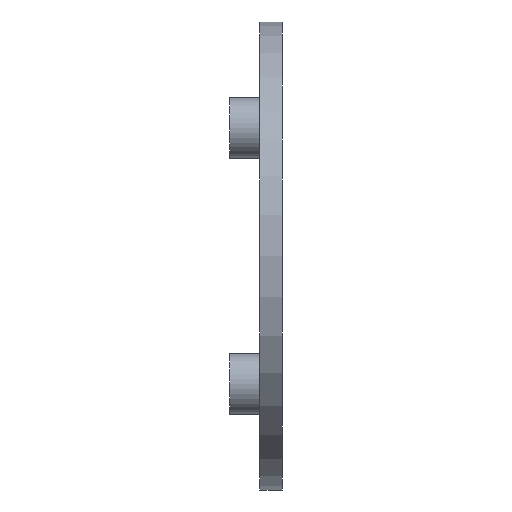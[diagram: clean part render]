
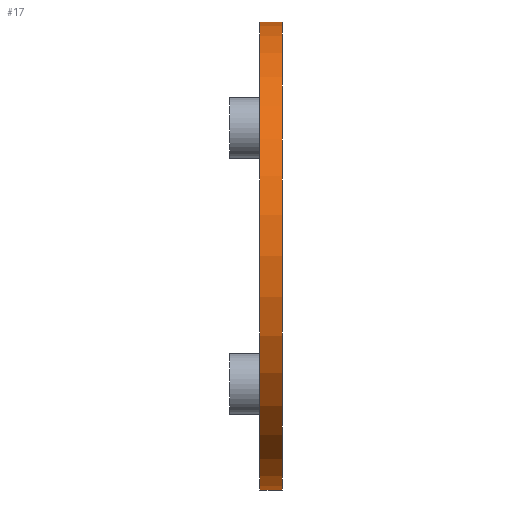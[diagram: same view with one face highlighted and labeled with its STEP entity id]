
A CAD part, front view. The second image highlights one B-rep face of the part: STEP entity #17.
In plain terms, the highlighted cylindrical face has radius 31 mm (diameter 62 mm), a full revolution.
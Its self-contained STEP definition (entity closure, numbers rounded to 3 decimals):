
#17 = ADVANCED_FACE('',(#18),#32,.T.);
#18 = FACE_BOUND('',#19,.F.);
#19 = EDGE_LOOP('',(#20,#50,#77,#78));
#20 = ORIENTED_EDGE('',*,*,#21,.T.);
#21 = EDGE_CURVE('',#22,#24,#26,.T.);
#22 = VERTEX_POINT('',#23);
#23 = CARTESIAN_POINT('',(-11.4,31.,0.));
#24 = VERTEX_POINT('',#25);
#25 = CARTESIAN_POINT('',(-8.4,31.,0.));
#26 = SEAM_CURVE('',#27,(#31,#43),.PCURVE_S1.);
#27 = LINE('',#28,#29);
#28 = CARTESIAN_POINT('',(-11.4,31.,0.));
#29 = VECTOR('',#30,1.);
#30 = DIRECTION('',(1.,0.,0.));
#31 = PCURVE('',#32,#37);
#32 = CYLINDRICAL_SURFACE('',#33,31.);
#33 = AXIS2_PLACEMENT_3D('',#34,#35,#36);
#34 = CARTESIAN_POINT('',(-11.4,0.,0.));
#35 = DIRECTION('',(-1.,-0.,-0.));
#36 = DIRECTION('',(0.,1.,0.));
#37 = DEFINITIONAL_REPRESENTATION('',(#38),#42);
#38 = LINE('',#39,#40);
#39 = CARTESIAN_POINT('',(-0.,0.));
#40 = VECTOR('',#41,1.);
#41 = DIRECTION('',(-0.,-1.));
#42 = ( GEOMETRIC_REPRESENTATION_CONTEXT(2) 
PARAMETRIC_REPRESENTATION_CONTEXT() REPRESENTATION_CONTEXT('2D SPACE',''
  ) );
#43 = PCURVE('',#32,#44);
#44 = DEFINITIONAL_REPRESENTATION('',(#45),#49);
#45 = LINE('',#46,#47);
#46 = CARTESIAN_POINT('',(-6.283,0.));
#47 = VECTOR('',#48,1.);
#48 = DIRECTION('',(-0.,-1.));
#49 = ( GEOMETRIC_REPRESENTATION_CONTEXT(2) 
PARAMETRIC_REPRESENTATION_CONTEXT() REPRESENTATION_CONTEXT('2D SPACE',''
  ) );
#50 = ORIENTED_EDGE('',*,*,#51,.T.);
#51 = EDGE_CURVE('',#24,#24,#52,.T.);
#52 = SURFACE_CURVE('',#53,(#58,#65),.PCURVE_S1.);
#53 = CIRCLE('',#54,31.);
#54 = AXIS2_PLACEMENT_3D('',#55,#56,#57);
#55 = CARTESIAN_POINT('',(-8.4,0.,0.));
#56 = DIRECTION('',(1.,0.,0.));
#57 = DIRECTION('',(0.,1.,0.));
#58 = PCURVE('',#32,#59);
#59 = DEFINITIONAL_REPRESENTATION('',(#60),#64);
#60 = LINE('',#61,#62);
#61 = CARTESIAN_POINT('',(-0.,-3.));
#62 = VECTOR('',#63,1.);
#63 = DIRECTION('',(-1.,0.));
#64 = ( GEOMETRIC_REPRESENTATION_CONTEXT(2) 
PARAMETRIC_REPRESENTATION_CONTEXT() REPRESENTATION_CONTEXT('2D SPACE',''
  ) );
#65 = PCURVE('',#66,#71);
#66 = PLANE('',#67);
#67 = AXIS2_PLACEMENT_3D('',#68,#69,#70);
#68 = CARTESIAN_POINT('',(-8.4,0.,0.));
#69 = DIRECTION('',(1.,0.,0.));
#70 = DIRECTION('',(-0.,0.,1.));
#71 = DEFINITIONAL_REPRESENTATION('',(#72),#76);
#72 = CIRCLE('',#73,31.);
#73 = AXIS2_PLACEMENT_2D('',#74,#75);
#74 = CARTESIAN_POINT('',(0.,0.));
#75 = DIRECTION('',(0.,-1.));
#76 = ( GEOMETRIC_REPRESENTATION_CONTEXT(2) 
PARAMETRIC_REPRESENTATION_CONTEXT() REPRESENTATION_CONTEXT('2D SPACE',''
  ) );
#77 = ORIENTED_EDGE('',*,*,#21,.F.);
#78 = ORIENTED_EDGE('',*,*,#79,.F.);
#79 = EDGE_CURVE('',#22,#22,#80,.T.);
#80 = SURFACE_CURVE('',#81,(#86,#93),.PCURVE_S1.);
#81 = CIRCLE('',#82,31.);
#82 = AXIS2_PLACEMENT_3D('',#83,#84,#85);
#83 = CARTESIAN_POINT('',(-11.4,0.,0.));
#84 = DIRECTION('',(1.,0.,0.));
#85 = DIRECTION('',(0.,1.,0.));
#86 = PCURVE('',#32,#87);
#87 = DEFINITIONAL_REPRESENTATION('',(#88),#92);
#88 = LINE('',#89,#90);
#89 = CARTESIAN_POINT('',(-0.,0.));
#90 = VECTOR('',#91,1.);
#91 = DIRECTION('',(-1.,0.));
#92 = ( GEOMETRIC_REPRESENTATION_CONTEXT(2) 
PARAMETRIC_REPRESENTATION_CONTEXT() REPRESENTATION_CONTEXT('2D SPACE',''
  ) );
#93 = PCURVE('',#94,#99);
#94 = PLANE('',#95);
#95 = AXIS2_PLACEMENT_3D('',#96,#97,#98);
#96 = CARTESIAN_POINT('',(-11.4,0.,0.)
  );
#97 = DIRECTION('',(1.,0.,0.));
#98 = DIRECTION('',(-0.,0.,1.));
#99 = DEFINITIONAL_REPRESENTATION('',(#100),#104);
#100 = CIRCLE('',#101,31.);
#101 = AXIS2_PLACEMENT_2D('',#102,#103);
#102 = CARTESIAN_POINT('',(0.,0.));
#103 = DIRECTION('',(0.,-1.));
#104 = ( GEOMETRIC_REPRESENTATION_CONTEXT(2) 
PARAMETRIC_REPRESENTATION_CONTEXT() REPRESENTATION_CONTEXT('2D SPACE',''
  ) );
